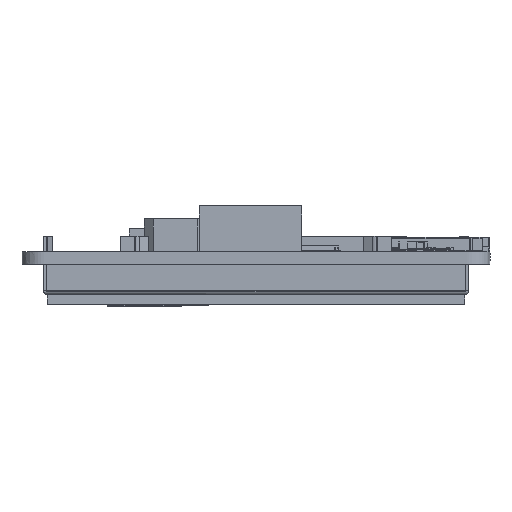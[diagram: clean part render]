
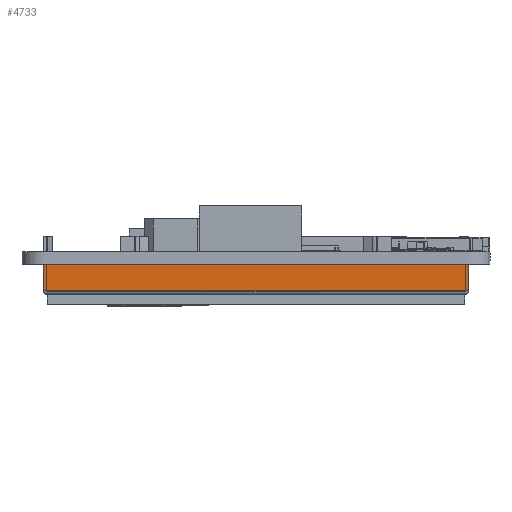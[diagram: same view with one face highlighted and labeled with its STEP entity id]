
A CAD part, left-side view. The second image highlights one B-rep face of the part: STEP entity #4733.
In plain terms, the highlighted planar face has unit normal (-1, 0, 0).
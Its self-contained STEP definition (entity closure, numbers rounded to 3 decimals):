
#4733=ADVANCED_FACE('',(#9231),#6807,.F.);
#6807=PLANE('',#53305);
#9231=FACE_OUTER_BOUND('',#11764,.T.);
#11764=EDGE_LOOP('',(#25687,#25688,#25689,#25690));
#25687=ORIENTED_EDGE('',*,*,#37791,.F.);
#25688=ORIENTED_EDGE('',*,*,#37792,.T.);
#25689=ORIENTED_EDGE('',*,*,#37793,.T.);
#25690=ORIENTED_EDGE('',*,*,#37761,.T.);
#30992=VERTEX_POINT('',#79425);
#30993=VERTEX_POINT('',#79426);
#31016=VERTEX_POINT('',#79487);
#31017=VERTEX_POINT('',#79489);
#37761=EDGE_CURVE('',#30992,#30993,#43892,.T.);
#37791=EDGE_CURVE('',#31016,#30993,#43916,.T.);
#37792=EDGE_CURVE('',#31016,#31017,#43917,.T.);
#37793=EDGE_CURVE('',#31017,#30992,#43918,.T.);
#43892=LINE('',#79424,#49877);
#43916=LINE('',#79486,#49901);
#43917=LINE('',#79488,#49902);
#43918=LINE('',#79490,#49903);
#49877=VECTOR('',#65135,1.);
#49901=VECTOR('',#65187,1.);
#49902=VECTOR('',#65188,1.);
#49903=VECTOR('',#65189,1.);
#53305=AXIS2_PLACEMENT_3D('',#79491,#65190,#65191);
#65135=DIRECTION('',(0.,1.,0.));
#65187=DIRECTION('',(0.,0.,1.));
#65188=DIRECTION('',(0.,-1.,0.));
#65189=DIRECTION('',(0.,0.,1.));
#65190=DIRECTION('',(1.,0.,0.));
#65191=DIRECTION('',(0.,0.,1.));
#79424=CARTESIAN_POINT('',(292.061,-20.489,-1.6));
#79425=CARTESIAN_POINT('',(292.061,-20.489,-1.6));
#79426=CARTESIAN_POINT('',(292.061,35.011,-1.6));
#79486=CARTESIAN_POINT('',(292.061,35.011,-5.6));
#79487=CARTESIAN_POINT('',(292.061,35.011,-5.1));
#79488=CARTESIAN_POINT('',(292.061,-20.489,-5.1));
#79489=CARTESIAN_POINT('',(292.061,-20.489,-5.1));
#79490=CARTESIAN_POINT('',(292.061,-20.489,-5.6));
#79491=CARTESIAN_POINT('',(292.061,-20.489,-5.6));
